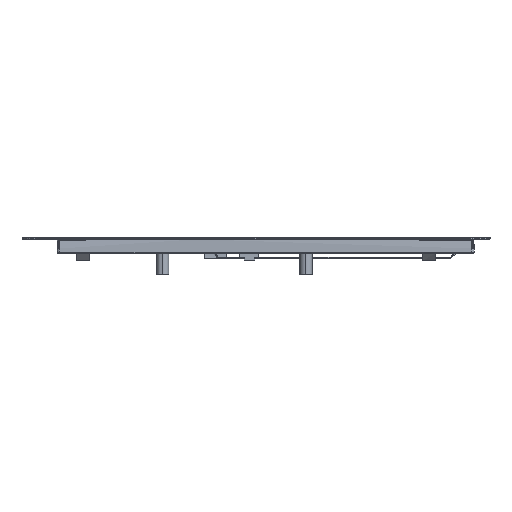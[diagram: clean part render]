
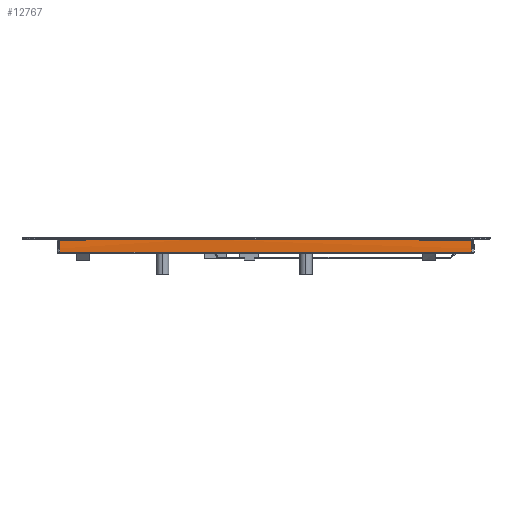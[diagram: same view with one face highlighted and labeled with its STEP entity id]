
A CAD part, left-side view. The second image highlights one B-rep face of the part: STEP entity #12767.
In plain terms, the highlighted planar face has unit normal (1, 0, 0).
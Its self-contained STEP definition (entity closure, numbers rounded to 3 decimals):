
#247 = CARTESIAN_POINT ( 'NONE',  ( -1., -167.05, 0. ) ) ;
#498 = ORIENTED_EDGE ( 'NONE', *, *, #602, .T. ) ;
#602 = EDGE_CURVE ( 'NONE', #3027, #10414, #3574, .T. ) ;
#757 = CARTESIAN_POINT ( 'NONE',  ( -1., -167.05, 0. ) ) ;
#995 = CARTESIAN_POINT ( 'NONE',  ( -1., -167.05, 4.5 ) ) ;
#1115 = B_SPLINE_CURVE_WITH_KNOTS ( 'NONE', 3,
 ( #5688, #11600, #12910, #2261 ),
 .UNSPECIFIED., .F., .F.,
 ( 4, 4 ),
 ( 0.285, 0.856 ),
 .UNSPECIFIED. ) ;
#1136 = CARTESIAN_POINT ( 'NONE',  ( -1., -0.5, 0. ) ) ;
#2204 = EDGE_LOOP ( 'NONE', ( #12913, #5437, #11103, #12309, #498, #3260 ) ) ;
#2261 = CARTESIAN_POINT ( 'NONE',  ( -1., -0.5, 4.5 ) ) ;
#2391 = EDGE_CURVE ( 'NONE', #13101, #3027, #7302, .T. ) ;
#2996 = B_SPLINE_CURVE_WITH_KNOTS ( 'NONE', 3,
 ( #6668, #7759, #11561, #757 ),
 .UNSPECIFIED., .F., .F.,
 ( 4, 4 ),
 ( 0.715, 1. ),
 .UNSPECIFIED. ) ;
#3027 = VERTEX_POINT ( 'NONE', #9973 ) ;
#3079 = CARTESIAN_POINT ( 'NONE',  ( -1., -167.05, 3.5 ) ) ;
#3127 = CARTESIAN_POINT ( 'NONE',  ( -1., -0.5, 1.5 ) ) ;
#3154 = B_SPLINE_CURVE_WITH_KNOTS ( 'NONE', 3,
 ( #995, #3079, #15083, #12492 ),
 .UNSPECIFIED., .F., .F.,
 ( 4, 4 ),
 ( 0.144, 0.715 ),
 .UNSPECIFIED. ) ;
#3260 = ORIENTED_EDGE ( 'NONE', *, *, #14639, .T. ) ;
#3286 = CARTESIAN_POINT ( 'NONE',  ( -1., -0.5, 1. ) ) ;
#3322 = DIRECTION ( 'NONE',  ( 1., 0., 0. ) ) ;
#3574 = B_SPLINE_CURVE_WITH_KNOTS ( 'NONE', 3,
 ( #9127, #8972, #3286, #3127 ),
 .UNSPECIFIED., .F., .F.,
 ( 4, 4 ),
 ( 0., 0.285 ),
 .UNSPECIFIED. ) ;
#3811 = EDGE_CURVE ( 'NONE', #10612, #13101, #2996, .T. ) ;
#4026 = EDGE_CURVE ( 'NONE', #7036, #13827, #8930, .T. ) ;
#4491 = FACE_OUTER_BOUND ( 'NONE', #2204, .T. ) ;
#4546 = CARTESIAN_POINT ( 'NONE',  ( -1., -111.533, 0. ) ) ;
#5437 = ORIENTED_EDGE ( 'NONE', *, *, #6246, .T. ) ;
#5688 = CARTESIAN_POINT ( 'NONE',  ( -1., -0.5, 1.5 ) ) ;
#6246 = EDGE_CURVE ( 'NONE', #13827, #10612, #3154, .T. ) ;
#6668 = CARTESIAN_POINT ( 'NONE',  ( -1., -167.05, 1.5 ) ) ;
#7036 = VERTEX_POINT ( 'NONE', #14816 ) ;
#7302 = B_SPLINE_CURVE_WITH_KNOTS ( 'NONE', 3,
 ( #10321, #4546, #14204, #1136 ),
 .UNSPECIFIED., .F., .F.,
 ( 4, 4 ),
 ( 0., 1. ),
 .UNSPECIFIED. ) ;
#7540 = AXIS2_PLACEMENT_3D ( 'NONE', #14220, #3322, #12801 ) ;
#7759 = CARTESIAN_POINT ( 'NONE',  ( -1., -167.05, 1. ) ) ;
#8930 = B_SPLINE_CURVE_WITH_KNOTS ( 'NONE', 3,
 ( #9900, #12221, #12300, #11133 ),
 .UNSPECIFIED., .F., .F.,
 ( 4, 4 ),
 ( 0., 1. ),
 .UNSPECIFIED. ) ;
#8972 = CARTESIAN_POINT ( 'NONE',  ( -1., -0.5, 0.5 ) ) ;
#9127 = CARTESIAN_POINT ( 'NONE',  ( -1., -0.5, 0. ) ) ;
#9900 = CARTESIAN_POINT ( 'NONE',  ( -1., -0.5, 5.26 ) ) ;
#9973 = CARTESIAN_POINT ( 'NONE',  ( -1., -0.5, 0. ) ) ;
#10321 = CARTESIAN_POINT ( 'NONE',  ( -1., -167.05, 0. ) ) ;
#10413 = PLANE ( 'NONE',  #7540 ) ;
#10414 = VERTEX_POINT ( 'NONE', #13310 ) ;
#10612 = VERTEX_POINT ( 'NONE', #15265 ) ;
#11103 = ORIENTED_EDGE ( 'NONE', *, *, #3811, .T. ) ;
#11133 = CARTESIAN_POINT ( 'NONE',  ( -1., -167.05, 5.26 ) ) ;
#11561 = CARTESIAN_POINT ( 'NONE',  ( -1., -167.05, 0.5 ) ) ;
#11600 = CARTESIAN_POINT ( 'NONE',  ( -1., -0.5, 2.5 ) ) ;
#12221 = CARTESIAN_POINT ( 'NONE',  ( -1., -56.017, 5.26 ) ) ;
#12300 = CARTESIAN_POINT ( 'NONE',  ( -1., -111.533, 5.26 ) ) ;
#12309 = ORIENTED_EDGE ( 'NONE', *, *, #2391, .T. ) ;
#12492 = CARTESIAN_POINT ( 'NONE',  ( -1., -167.05, 1.5 ) ) ;
#12767 = ADVANCED_FACE ( 'NONE', ( #4491 ), #10413, .T. ) ;
#12801 = DIRECTION ( 'NONE',  ( 0., 1., 0. ) ) ;
#12910 = CARTESIAN_POINT ( 'NONE',  ( -1., -0.5, 3.5 ) ) ;
#12913 = ORIENTED_EDGE ( 'NONE', *, *, #4026, .T. ) ;
#13101 = VERTEX_POINT ( 'NONE', #247 ) ;
#13310 = CARTESIAN_POINT ( 'NONE',  ( -1., -0.5, 1.5 ) ) ;
#13827 = VERTEX_POINT ( 'NONE', #14458 ) ;
#14204 = CARTESIAN_POINT ( 'NONE',  ( -1., -56.017, 0. ) ) ;
#14220 = CARTESIAN_POINT ( 'NONE',  ( -1., -83.775, 2.25 ) ) ;
#14458 = CARTESIAN_POINT ( 'NONE',  ( -0.75, -167.05, 4.88 ) ) ;
#14639 = EDGE_CURVE ( 'NONE', #10414, #7036, #1115, .T. ) ;
#14816 = CARTESIAN_POINT ( 'NONE',  ( -0.75, -0.5, 4.88 ) ) ;
#15083 = CARTESIAN_POINT ( 'NONE',  ( -1., -167.05, 2.5 ) ) ;
#15265 = CARTESIAN_POINT ( 'NONE',  ( -1., -167.05, 1.5 ) ) ;
